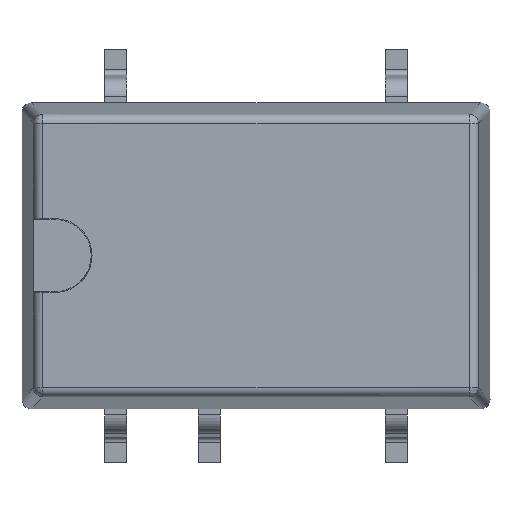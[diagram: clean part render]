
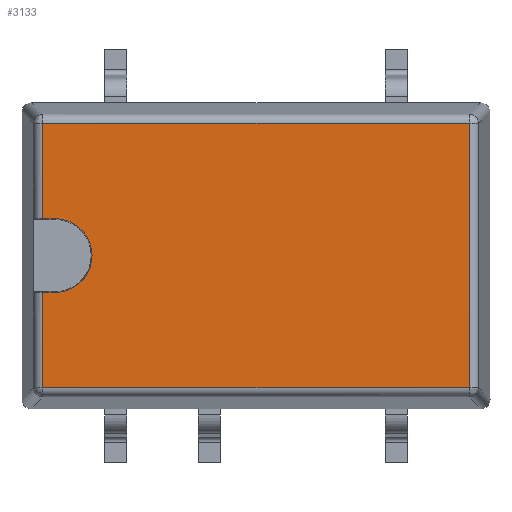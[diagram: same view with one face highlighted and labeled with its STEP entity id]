
A CAD part, top view. The second image highlights one B-rep face of the part: STEP entity #3133.
In plain terms, the highlighted planar face has unit normal (0, 0, 1).
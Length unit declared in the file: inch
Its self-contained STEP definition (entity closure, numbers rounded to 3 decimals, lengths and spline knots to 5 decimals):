
#10 = VERTEX_POINT ( 'NONE', #1986 ) ;
#103 = DIRECTION ( 'NONE',  ( 0., 0., -1. ) ) ;
#140 = CARTESIAN_POINT ( 'NONE',  ( -0.62058, 0.29854, 0.18701 ) ) ;
#155 = EDGE_CURVE ( 'NONE', #3998, #2023, #1704, .T. ) ;
#180 = CARTESIAN_POINT ( 'NONE',  ( -0.62216, 0.11804, 0.18701 ) ) ;
#229 = CARTESIAN_POINT ( 'NONE',  ( -0.60898, 0.29854, 0.18701 ) ) ;
#258 = DIRECTION ( 'NONE',  ( 1., 0., 0. ) ) ;
#303 = EDGE_CURVE ( 'NONE', #3716, #3930, #3461, .T. ) ;
#320 = CARTESIAN_POINT ( 'NONE',  ( -0.15749, 0.4003, 0.18701 ) ) ;
#366 = EDGE_CURVE ( 'NONE', #3036, #2354, #1106, .T. ) ;
#445 = AXIS2_PLACEMENT_3D ( 'NONE', #3622, #103, #4348 ) ;
#506 = DIRECTION ( 'NONE',  ( -1., 0., 0. ) ) ;
#513 = VECTOR ( 'NONE', #1720, 39.37008 ) ;
#533 = CARTESIAN_POINT ( 'NONE',  ( -0.39442, 0.11804, 0.18701 ) ) ;
#706 = VERTEX_POINT ( 'NONE', #4425 ) ;
#733 = DIRECTION ( 'NONE',  ( 0., 0., -1. ) ) ;
#821 = CARTESIAN_POINT ( 'NONE',  ( -0.62216, 0.4003, 0.18701 ) ) ;
#856 = EDGE_LOOP ( 'NONE', ( #902, #2127, #2080, #4445, #2118, #3760, #3494, #4443, #865 ) ) ;
#865 = ORIENTED_EDGE ( 'NONE', *, *, #3184, .F. ) ;
#902 = ORIENTED_EDGE ( 'NONE', *, *, #366, .F. ) ;
#944 = EDGE_CURVE ( 'NONE', #10, #3998, #3283, .T. ) ;
#1100 = CARTESIAN_POINT ( 'NONE',  ( -0.16667, 0.10886, 0.18701 ) ) ;
#1106 = B_SPLINE_CURVE_WITH_KNOTS ( 'NONE', 3,
 ( #180, #3004, #2933, #1895 ),
 .UNSPECIFIED., .F., .F.,
 ( 4, 4 ),
 ( 0., 1. ),
 .UNSPECIFIED. ) ;
#1292 = VECTOR ( 'NONE', #2491, 39.37008 ) ;
#1359 = VERTEX_POINT ( 'NONE', #1432 ) ;
#1374 = CARTESIAN_POINT ( 'NONE',  ( -0.39442, 0.25917, 0.18701 ) ) ;
#1432 = CARTESIAN_POINT ( 'NONE',  ( -0.60898, 0.2198, 0.18701 ) ) ;
#1535 = CIRCLE ( 'NONE', #445, 0.03937 ) ;
#1543 = VECTOR ( 'NONE', #2254, 39.37008 ) ;
#1571 = CARTESIAN_POINT ( 'NONE',  ( -0.62217, 0.2198, 0.18701 ) ) ;
#1664 = DIRECTION ( 'NONE',  ( 1., 0., 0. ) ) ;
#1704 = CIRCLE ( 'NONE', #2504, 0.03937 ) ;
#1720 = DIRECTION ( 'NONE',  ( 1., 0., 0. ) ) ;
#1895 = CARTESIAN_POINT ( 'NONE',  ( -0.62217, 0.2198, 0.18701 ) ) ;
#1906 = CARTESIAN_POINT ( 'NONE',  ( -0.62216, 0.33246, 0.18701 ) ) ;
#1986 = CARTESIAN_POINT ( 'NONE',  ( -0.62217, 0.29854, 0.18701 ) ) ;
#1998 = CARTESIAN_POINT ( 'NONE',  ( -0.62058, 0.2198, 0.18701 ) ) ;
#2020 = DIRECTION ( 'NONE',  ( 0., 0., 1. ) ) ;
#2021 = CARTESIAN_POINT ( 'NONE',  ( -0.16667, 0.4003, 0.18701 ) ) ;
#2023 = VERTEX_POINT ( 'NONE', #4404 ) ;
#2080 = ORIENTED_EDGE ( 'NONE', *, *, #2544, .F. ) ;
#2118 = ORIENTED_EDGE ( 'NONE', *, *, #2334, .F. ) ;
#2127 = ORIENTED_EDGE ( 'NONE', *, *, #3771, .F. ) ;
#2226 = CARTESIAN_POINT ( 'NONE',  ( -0.62216, 0.4003, 0.18701 ) ) ;
#2254 = DIRECTION ( 'NONE',  ( 1., 0., 0. ) ) ;
#2334 = EDGE_CURVE ( 'NONE', #10, #3716, #3466, .T. ) ;
#2354 = VERTEX_POINT ( 'NONE', #1571 ) ;
#2491 = DIRECTION ( 'NONE',  ( 0., -1., 0. ) ) ;
#2504 = AXIS2_PLACEMENT_3D ( 'NONE', #2519, #733, #4201 ) ;
#2519 = CARTESIAN_POINT ( 'NONE',  ( -0.60898, 0.25917, 0.18701 ) ) ;
#2544 = EDGE_CURVE ( 'NONE', #3930, #706, #4199, .T. ) ;
#2556 = CARTESIAN_POINT ( 'NONE',  ( -0.62217, 0.29854, 0.18701 ) ) ;
#2710 = FACE_OUTER_BOUND ( 'NONE', #856, .T. ) ;
#2933 = CARTESIAN_POINT ( 'NONE',  ( -0.62216, 0.18588, 0.18701 ) ) ;
#3004 = CARTESIAN_POINT ( 'NONE',  ( -0.62216, 0.15196, 0.18701 ) ) ;
#3036 = VERTEX_POINT ( 'NONE', #4391 ) ;
#3055 = AXIS2_PLACEMENT_3D ( 'NONE', #1374, #2020, #258 ) ;
#3133 = ADVANCED_FACE ( 'NONE', ( #2710 ), #3491, .T. ) ;
#3141 = LINE ( 'NONE', #1998, #3822 ) ;
#3184 = EDGE_CURVE ( 'NONE', #2354, #1359, #3141, .T. ) ;
#3283 = LINE ( 'NONE', #140, #1543 ) ;
#3450 = EDGE_CURVE ( 'NONE', #2023, #1359, #1535, .T. ) ;
#3461 = LINE ( 'NONE', #320, #513 ) ;
#3466 = B_SPLINE_CURVE_WITH_KNOTS ( 'NONE', 3,
 ( #2556, #1906, #3969, #821 ),
 .UNSPECIFIED., .F., .F.,
 ( 4, 4 ),
 ( 0., 1. ),
 .UNSPECIFIED. ) ;
#3491 = PLANE ( 'NONE',  #3055 ) ;
#3494 = ORIENTED_EDGE ( 'NONE', *, *, #155, .T. ) ;
#3622 = CARTESIAN_POINT ( 'NONE',  ( -0.60898, 0.25917, 0.18701 ) ) ;
#3660 = LINE ( 'NONE', #533, #4070 ) ;
#3716 = VERTEX_POINT ( 'NONE', #2226 ) ;
#3760 = ORIENTED_EDGE ( 'NONE', *, *, #944, .T. ) ;
#3771 = EDGE_CURVE ( 'NONE', #706, #3036, #3660, .T. ) ;
#3822 = VECTOR ( 'NONE', #1664, 39.37008 ) ;
#3930 = VERTEX_POINT ( 'NONE', #2021 ) ;
#3969 = CARTESIAN_POINT ( 'NONE',  ( -0.62216, 0.36638, 0.18701 ) ) ;
#3998 = VERTEX_POINT ( 'NONE', #229 ) ;
#4070 = VECTOR ( 'NONE', #506, 39.37008 ) ;
#4199 = LINE ( 'NONE', #1100, #1292 ) ;
#4201 = DIRECTION ( 'NONE',  ( 1., 0., 0. ) ) ;
#4348 = DIRECTION ( 'NONE',  ( 1., 0., 0. ) ) ;
#4391 = CARTESIAN_POINT ( 'NONE',  ( -0.62216, 0.11804, 0.18701 ) ) ;
#4404 = CARTESIAN_POINT ( 'NONE',  ( -0.56961, 0.25917, 0.18701 ) ) ;
#4425 = CARTESIAN_POINT ( 'NONE',  ( -0.16667, 0.11804, 0.18701 ) ) ;
#4443 = ORIENTED_EDGE ( 'NONE', *, *, #3450, .T. ) ;
#4445 = ORIENTED_EDGE ( 'NONE', *, *, #303, .F. ) ;
